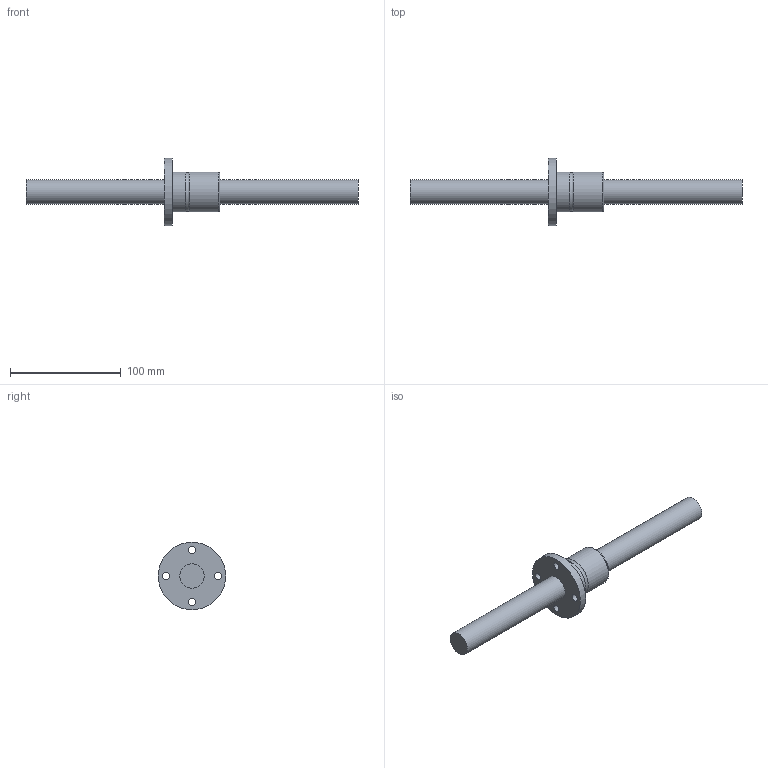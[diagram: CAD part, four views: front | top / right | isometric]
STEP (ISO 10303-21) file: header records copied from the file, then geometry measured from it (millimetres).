
FILE_DESCRIPTION((''),'2;1');
FILE_NAME('D:\製品 (図面)\カタログ用3D\ネジ関連\STEP形式\TMF-OH\TMF22-OH.stp','2010-06-02T15:14:16',('Tsuchiya'),(''),'Autodesk Inventor 10','Autodesk Inventor 10','');
FILE_SCHEMA(('AUTOMOTIVE_DESIGN { 1 0 10303 214 1 1 1 1 }'));
Length unit declared in the file: millimetre
Products named in the file (3): TMF22-OH; TMF22-OH1; TMF22-OH2
Assembly tree (2 placements, depth 2):
  TMF22-OH
    TMF22-OH1
    TMF22-OH2
Bounding box: 300 x 61 x 61 mm (x, y, z)
Volume: 158035.5 mm3; surface area: 36519.6 mm2
Topology: 2 solids, 2 shells, 18 faces, 40 edges, 27 vertices
Faces by surface type: cylinder 10, plane 5, bspline 2, torus 1
Full cylindrical faces by diameter (mm): 2.5 x1, 6.6 x4, 22 x2, 36 x2, 61 x1
Entity records: 714 total; most frequent: CARTESIAN_POINT 291, DIRECTION 82, ORIENTED_EDGE 44, EDGE_LOOP 44, AXIS2_PLACEMENT_3D 41, FACE_BOUND 26, VERTEX_POINT 22, EDGE_CURVE 22
